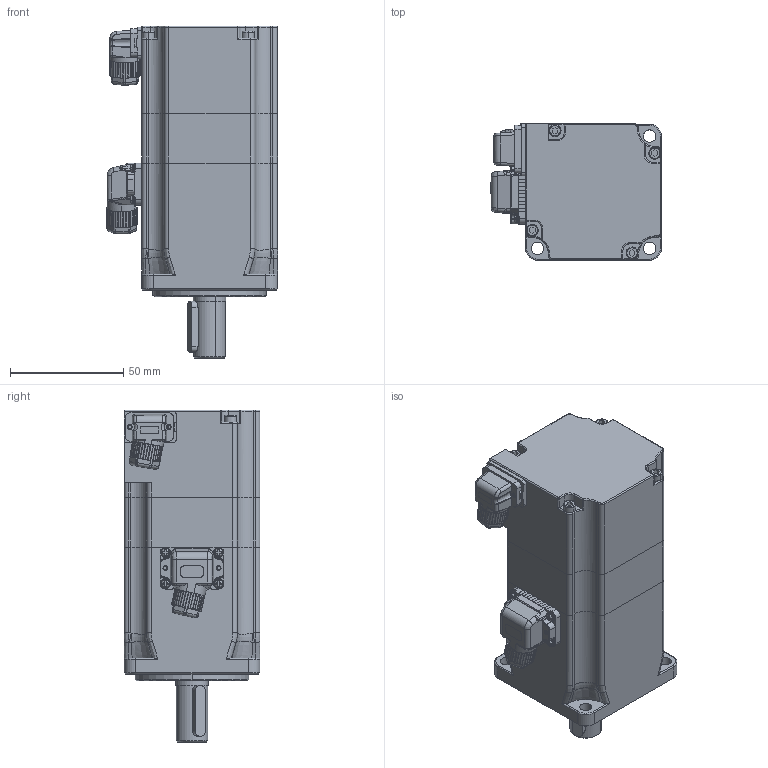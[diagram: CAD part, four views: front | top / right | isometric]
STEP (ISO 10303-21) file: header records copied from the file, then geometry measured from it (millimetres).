
FILE_DESCRIPTION (( 'STEP AP214' ), '1' );
FILE_NAME ('60-200WÉ²³µ.STEP', '2023-11-03T11:09:07', ( 'muse' ), ( 'muse' ), 'SwSTEP 2.0', 'SolidWorks 2020', '' );
FILE_SCHEMA (( 'AUTOMOTIVE_DESIGN' ));
Length unit declared in the file: millimetre
Products named in the file (11): JM30伺服电机动力插头4+2P-小型斜口-散装(不含端子).stp; 60价陬綴欶; JM30伺服电机编码器插头7P-小型斜口-散装(不含端子).stp; 60粣扥1.stp; 60-200W儂旯; 儂旯蹟佪.stp; 60す瑩.stp; 伺服电机动力焊线底座4+2P小型斜口带线带刹车线(1).stp; JM30伺服电机编码器焊线式底座7P小型斜口不带线(1).stp; 60价陬綴傷裔; 60-200W价陬
Assembly tree (13 placements, depth 2):
  60-200W价陬
    60-200W儂旯
    60す瑩.stp
    60价陬綴傷裔
    60价陬綴欶
    60粣扥1.stp
    JM30伺服电机编码器插头7P-小型斜口-散装(不含端子).stp
    JM30伺服电机编码器焊线式底座7P小型斜口不带线(1).stp
    JM30伺服电机动力插头4+2P-小型斜口-散装(不含端子).stp
    伺服电机动力焊线底座4+2P小型斜口带线带刹车线(1).stp
    儂旯蹟佪.stp  x4
Bounding box: 75.47 x 60 x 146.5 mm (x, y, z)
Volume: 390731.7 mm3; surface area: 65107.8 mm2
Topology: 13 solids, 30 shells, 3634 faces, 9547 edges, 6057 vertices
Faces by surface type: plane 1969, cylinder 996, cone 311, torus 177, bspline 174, sphere 7
Entity records: 129667 total; most frequent: CARTESIAN_POINT 43324, ORIENTED_EDGE 18758, DIRECTION 16721, EDGE_CURVE 9379, VERTEX_POINT 5981, LINE 5721, VECTOR 5721, AXIS2_PLACEMENT_3D 5500
